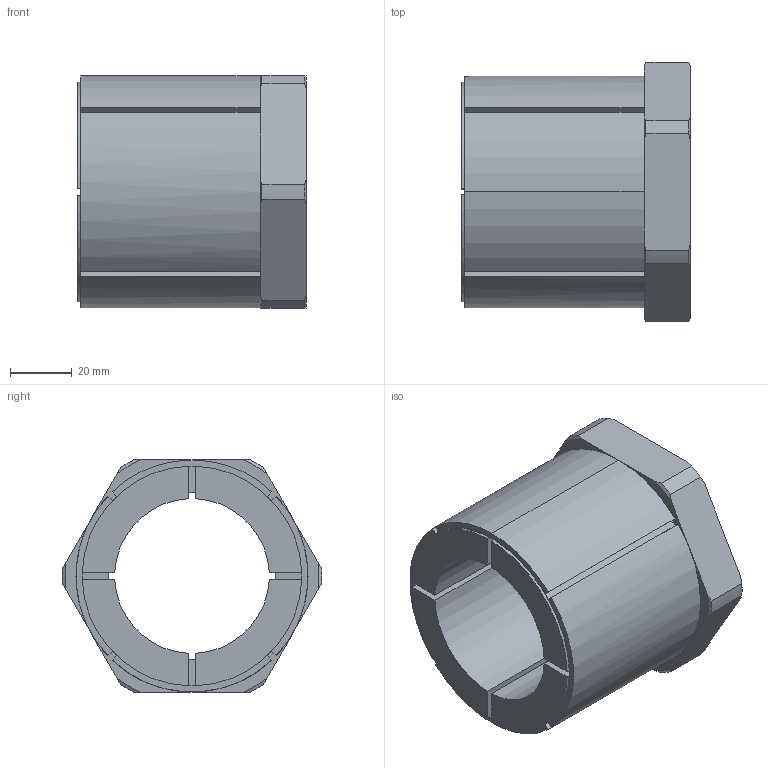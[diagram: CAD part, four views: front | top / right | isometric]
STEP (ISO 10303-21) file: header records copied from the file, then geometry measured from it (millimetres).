
FILE_DESCRIPTION (( 'STEP AP203' ), '1' );
FILE_NAME ('KBS 58 - 50 x 75.STEP', '2015-07-05T20:02:03', ( '' ), ( '' ), 'SwSTEP 2.0', 'SolidWorks 2010', '' );
FILE_SCHEMA (( 'CONFIG_CONTROL_DESIGN' ));
Length unit declared in the file: millimetre
Products named in the file (1): KBS 58 - 50 x 75
Bounding box: 74 x 83.99 x 75 mm (x, y, z)
Volume: 180280.7 mm3; surface area: 42125.7 mm2
Topology: 1 solids, 1 shells, 84 faces, 231 edges, 149 vertices
Faces by surface type: plane 42, cylinder 26, cone 16
Entity records: 2817 total; most frequent: CARTESIAN_POINT 585, ORIENTED_EDGE 462, DIRECTION 454, EDGE_CURVE 231, AXIS2_PLACEMENT_3D 170, VERTEX_POINT 149, VECTOR 114, LINE 114
